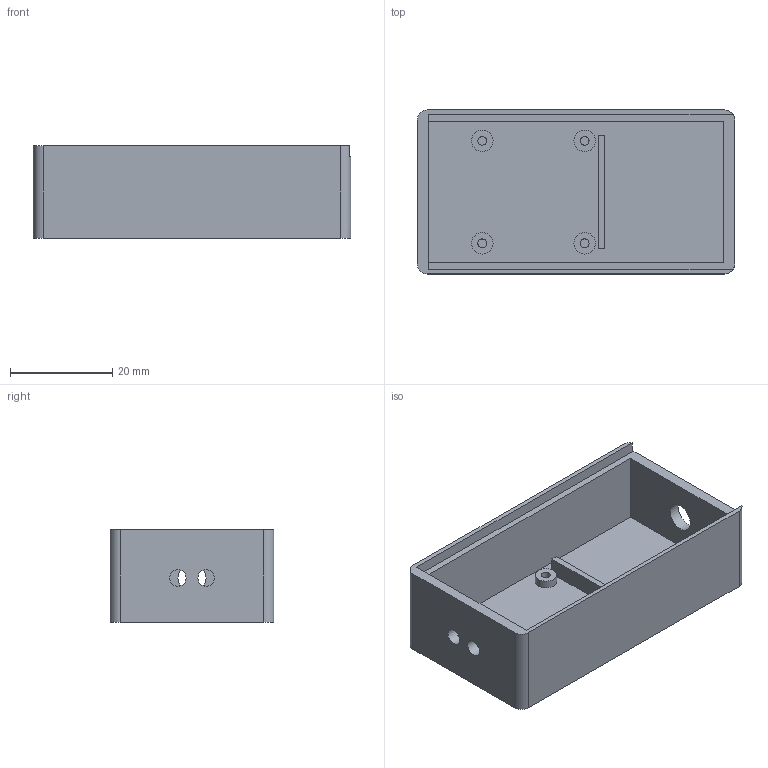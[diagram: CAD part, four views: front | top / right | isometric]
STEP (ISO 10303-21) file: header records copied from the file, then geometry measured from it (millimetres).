
FILE_DESCRIPTION(('Open CASCADE Model'),'2;1');
FILE_NAME('Open CASCADE Shape Model','2026-09-07T15:20:36',('Author'),( 'Open CASCADE'),'Open CASCADE STEP processor 7.9','Open CASCADE 7.9' ,'Unknown');
FILE_SCHEMA(('AUTOMOTIVE_DESIGN { 1 0 10303 214 1 1 1 1 }'));
Length unit declared in the file: millimetre
Products named in the file (1): Open CASCADE STEP translator 7.9 1
Bounding box: 62 x 32 x 18 mm (x, y, z)
Volume: 9508.2 mm3; surface area: 10218.1 mm2
Topology: 1 solids, 1 shells, 43 faces, 93 edges, 62 vertices
Faces by surface type: plane 28, cylinder 15
Full cylindrical faces by diameter (mm): 1.7 x4, 3.2 x2, 4.2 x4, 5.5 x1
Entity records: 2463 total; most frequent: CARTESIAN_POINT 512, DIRECTION 372, LINE 208, VECTOR 208, ORIENTED_EDGE 186, PCURVE 186, DEFINITIONAL_REPRESENTATION 186, EDGE_CURVE 93
